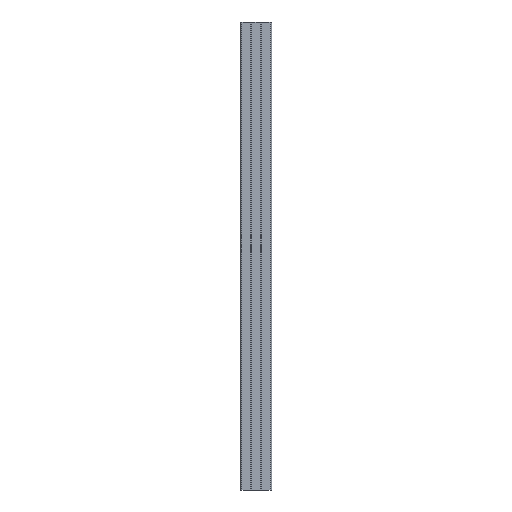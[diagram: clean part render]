
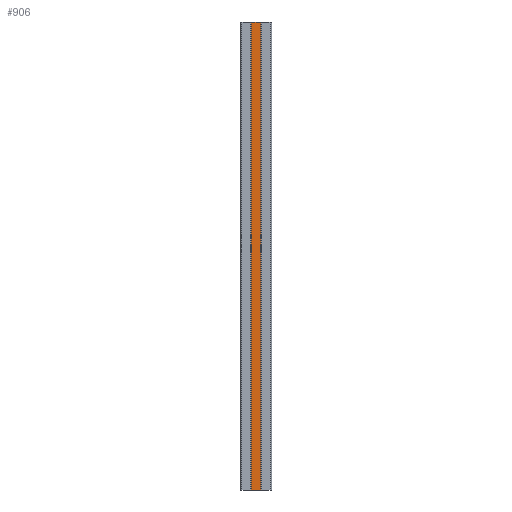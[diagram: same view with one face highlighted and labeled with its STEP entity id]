
A CAD part, front view. The second image highlights one B-rep face of the part: STEP entity #906.
In plain terms, the highlighted planar face has unit normal (0, -1, 0).
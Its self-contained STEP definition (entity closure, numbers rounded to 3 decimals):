
#39 = PLANE ( 'NONE',  #1036 ) ;
#85 = EDGE_CURVE ( 'NONE', #1458, #615, #713, .T. ) ;
#226 = EDGE_CURVE ( 'NONE', #1775, #615, #979, .T. ) ;
#251 = DIRECTION ( 'NONE',  ( 1., 0., 0. ) ) ;
#307 = VERTEX_POINT ( 'NONE', #2166 ) ;
#322 = ORIENTED_EDGE ( 'NONE', *, *, #756, .T. ) ;
#335 = EDGE_LOOP ( 'NONE', ( #1308, #1583, #568, #322 ) ) ;
#422 = CARTESIAN_POINT ( 'NONE',  ( -3.239, -4.3, -150. ) ) ;
#456 = VECTOR ( 'NONE', #251, 1000. ) ;
#459 = DIRECTION ( 'NONE',  ( 0., 0., 1. ) ) ;
#487 = CARTESIAN_POINT ( 'NONE',  ( 0., -4.3, -150. ) ) ;
#501 = DIRECTION ( 'NONE',  ( 0., 0., -1. ) ) ;
#546 = DIRECTION ( 'NONE',  ( 0., 0., -1. ) ) ;
#568 = ORIENTED_EDGE ( 'NONE', *, *, #1663, .F. ) ;
#615 = VERTEX_POINT ( 'NONE', #2103 ) ;
#687 = DIRECTION ( 'NONE',  ( 0., 1., 0. ) ) ;
#713 = LINE ( 'NONE', #487, #456 ) ;
#726 = FACE_OUTER_BOUND ( 'NONE', #335, .T. ) ;
#728 = CARTESIAN_POINT ( 'NONE',  ( 3.239, -4.3, 150. ) ) ;
#756 = EDGE_CURVE ( 'NONE', #307, #1458, #1028, .T. ) ;
#789 = CARTESIAN_POINT ( 'NONE',  ( -3.239, -4.3, 150. ) ) ;
#906 = ADVANCED_FACE ( 'NONE', ( #726 ), #39, .F. ) ;
#920 = CARTESIAN_POINT ( 'NONE',  ( 0., -4.3, 150. ) ) ;
#979 = LINE ( 'NONE', #728, #1654 ) ;
#1028 = LINE ( 'NONE', #789, #1744 ) ;
#1036 = AXIS2_PLACEMENT_3D ( 'NONE', #920, #687, #459 ) ;
#1308 = ORIENTED_EDGE ( 'NONE', *, *, #85, .T. ) ;
#1458 = VERTEX_POINT ( 'NONE', #422 ) ;
#1583 = ORIENTED_EDGE ( 'NONE', *, *, #226, .F. ) ;
#1634 = VECTOR ( 'NONE', #1655, 1000. ) ;
#1654 = VECTOR ( 'NONE', #501, 1000. ) ;
#1655 = DIRECTION ( 'NONE',  ( 1., 0., 0. ) ) ;
#1663 = EDGE_CURVE ( 'NONE', #307, #1775, #2120, .T. ) ;
#1744 = VECTOR ( 'NONE', #546, 1000. ) ;
#1775 = VERTEX_POINT ( 'NONE', #1905 ) ;
#1894 = CARTESIAN_POINT ( 'NONE',  ( -3.239, -4.3, 150. ) ) ;
#1905 = CARTESIAN_POINT ( 'NONE',  ( 3.239, -4.3, 150. ) ) ;
#2103 = CARTESIAN_POINT ( 'NONE',  ( 3.239, -4.3, -150. ) ) ;
#2120 = LINE ( 'NONE', #1894, #1634 ) ;
#2166 = CARTESIAN_POINT ( 'NONE',  ( -3.239, -4.3, 150. ) ) ;
